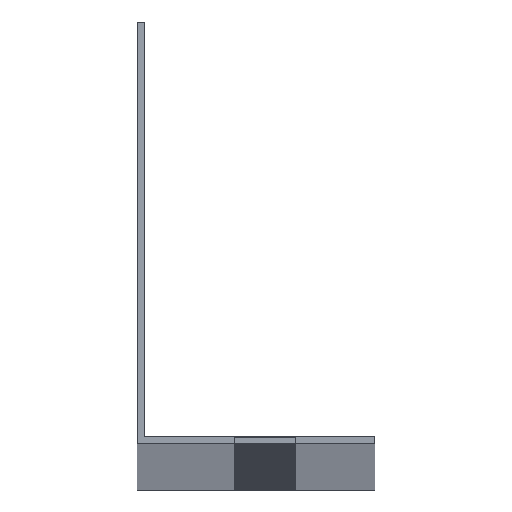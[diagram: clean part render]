
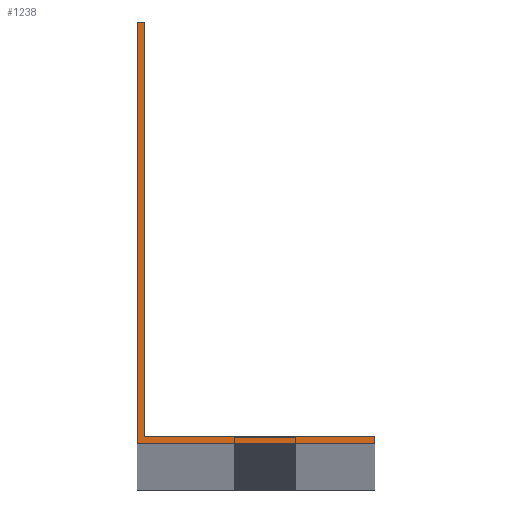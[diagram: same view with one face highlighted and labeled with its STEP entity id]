
A CAD part, top view. The second image highlights one B-rep face of the part: STEP entity #1238.
In plain terms, the highlighted planar face has unit normal (0, 0, 1).
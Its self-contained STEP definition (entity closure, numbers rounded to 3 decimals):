
#237 = EDGE_CURVE ( 'NONE', #9291, #7155, #3265, .T. ) ;
#274 = DIRECTION ( 'NONE',  ( 1., 0., 0. ) ) ;
#304 = FACE_OUTER_BOUND ( 'NONE', #9421, .T. ) ;
#376 = VECTOR ( 'NONE', #3846, 1000. ) ;
#465 = CARTESIAN_POINT ( 'NONE',  ( 27., 0.8, 1500. ) ) ;
#502 = CARTESIAN_POINT ( 'NONE',  ( 0.8, 48., 1500. ) ) ;
#522 = VECTOR ( 'NONE', #1686, 1000. ) ;
#596 = ORIENTED_EDGE ( 'NONE', *, *, #7495, .T. ) ;
#805 = VECTOR ( 'NONE', #274, 1000. ) ;
#894 = LINE ( 'NONE', #8575, #376 ) ;
#1009 = VERTEX_POINT ( 'NONE', #9847 ) ;
#1034 = CARTESIAN_POINT ( 'NONE',  ( 0., 0., 1500. ) ) ;
#1088 = CARTESIAN_POINT ( 'NONE',  ( 0., 0., 1500. ) ) ;
#1099 = LINE ( 'NONE', #9622, #5960 ) ;
#1238 = ADVANCED_FACE ( 'NONE', ( #304 ), #9586, .F. ) ;
#1468 = ORIENTED_EDGE ( 'NONE', *, *, #2865, .F. ) ;
#1533 = CARTESIAN_POINT ( 'NONE',  ( 0.8, 0.8, 1500. ) ) ;
#1686 = DIRECTION ( 'NONE',  ( 0., -1., 0. ) ) ;
#1697 = VERTEX_POINT ( 'NONE', #1533 ) ;
#2266 = DIRECTION ( 'NONE',  ( -1., 0., 0. ) ) ;
#2437 = LINE ( 'NONE', #8651, #522 ) ;
#2463 = ORIENTED_EDGE ( 'NONE', *, *, #3050, .T. ) ;
#2865 = EDGE_CURVE ( 'NONE', #4394, #1697, #2437, .T. ) ;
#3050 = EDGE_CURVE ( 'NONE', #4394, #1009, #894, .T. ) ;
#3195 = VECTOR ( 'NONE', #9131, 1000. ) ;
#3249 = AXIS2_PLACEMENT_3D ( 'NONE', #8934, #4464, #2266 ) ;
#3265 = LINE ( 'NONE', #1034, #805 ) ;
#3846 = DIRECTION ( 'NONE',  ( -1., 0., 0. ) ) ;
#4394 = VERTEX_POINT ( 'NONE', #502 ) ;
#4464 = DIRECTION ( 'NONE',  ( 0., 0., -1. ) ) ;
#5059 = LINE ( 'NONE', #6015, #3195 ) ;
#5116 = VERTEX_POINT ( 'NONE', #465 ) ;
#5216 = LINE ( 'NONE', #6684, #9509 ) ;
#5693 = ORIENTED_EDGE ( 'NONE', *, *, #237, .T. ) ;
#5960 = VECTOR ( 'NONE', #6326, 1000. ) ;
#6015 = CARTESIAN_POINT ( 'NONE',  ( 27., 0., 1500. ) ) ;
#6323 = EDGE_CURVE ( 'NONE', #1697, #5116, #5216, .T. ) ;
#6326 = DIRECTION ( 'NONE',  ( 0., -1., 0. ) ) ;
#6684 = CARTESIAN_POINT ( 'NONE',  ( 0., 0.8, 1500. ) ) ;
#7155 = VERTEX_POINT ( 'NONE', #9041 ) ;
#7495 = EDGE_CURVE ( 'NONE', #1009, #9291, #1099, .T. ) ;
#7569 = ORIENTED_EDGE ( 'NONE', *, *, #6323, .F. ) ;
#7637 = EDGE_CURVE ( 'NONE', #7155, #5116, #5059, .T. ) ;
#8575 = CARTESIAN_POINT ( 'NONE',  ( 0., 48., 1500. ) ) ;
#8651 = CARTESIAN_POINT ( 'NONE',  ( 0.8, 0., 1500. ) ) ;
#8934 = CARTESIAN_POINT ( 'NONE',  ( 0., 0., 1500. ) ) ;
#9041 = CARTESIAN_POINT ( 'NONE',  ( 27., 0., 1500. ) ) ;
#9131 = DIRECTION ( 'NONE',  ( 0., 1., 0. ) ) ;
#9291 = VERTEX_POINT ( 'NONE', #1088 ) ;
#9421 = EDGE_LOOP ( 'NONE', ( #1468, #2463, #596, #5693, #9606, #7569 ) ) ;
#9509 = VECTOR ( 'NONE', #9784, 1000. ) ;
#9586 = PLANE ( 'NONE',  #3249 ) ;
#9606 = ORIENTED_EDGE ( 'NONE', *, *, #7637, .T. ) ;
#9622 = CARTESIAN_POINT ( 'NONE',  ( 0., 0., 1500. ) ) ;
#9784 = DIRECTION ( 'NONE',  ( 1., 0., 0. ) ) ;
#9847 = CARTESIAN_POINT ( 'NONE',  ( 0., 48., 1500. ) ) ;
